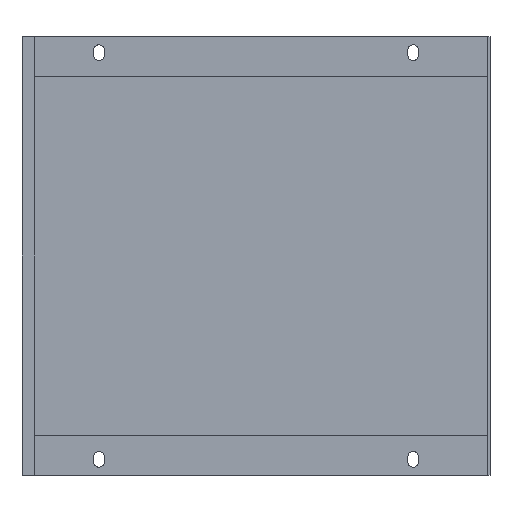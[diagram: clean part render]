
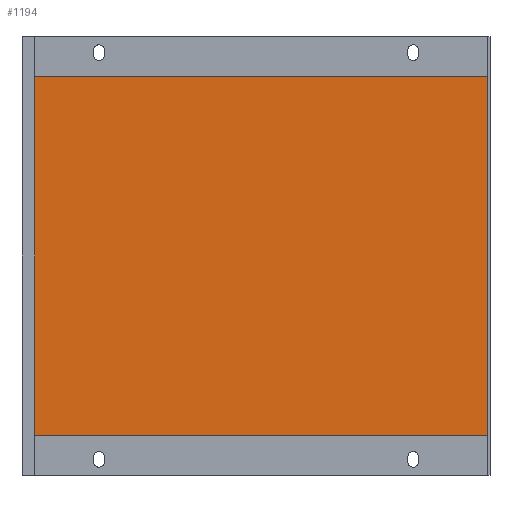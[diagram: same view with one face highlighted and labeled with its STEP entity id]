
A CAD part, front view. The second image highlights one B-rep face of the part: STEP entity #1194.
In plain terms, the highlighted planar face has unit normal (0, -1, 0).
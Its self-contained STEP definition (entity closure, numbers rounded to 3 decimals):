
#39 = LINE ( 'NONE', #279, #402 ) ;
#67 = VERTEX_POINT ( 'NONE', #640 ) ;
#88 = DIRECTION ( 'NONE',  ( 0., 0., -1. ) ) ;
#98 = ORIENTED_EDGE ( 'NONE', *, *, #1170, .F. ) ;
#279 = CARTESIAN_POINT ( 'NONE',  ( 0., 61.1, 254. ) ) ;
#295 = LINE ( 'NONE', #694, #583 ) ;
#297 = EDGE_LOOP ( 'NONE', ( #98, #357, #979, #887 ) ) ;
#326 = CARTESIAN_POINT ( 'NONE',  ( 288.6, 61.1, 279. ) ) ;
#350 = FACE_OUTER_BOUND ( 'NONE', #297, .T. ) ;
#357 = ORIENTED_EDGE ( 'NONE', *, *, #859, .T. ) ;
#402 = VECTOR ( 'NONE', #771, 1000. ) ;
#433 = LINE ( 'NONE', #1306, #1422 ) ;
#464 = LINE ( 'NONE', #326, #1152 ) ;
#577 = DIRECTION ( 'NONE',  ( 0., 0., 1. ) ) ;
#583 = VECTOR ( 'NONE', #814, 1000. ) ;
#607 = PLANE ( 'NONE',  #1571 ) ;
#640 = CARTESIAN_POINT ( 'NONE',  ( -6.6, 61.1, 254. ) ) ;
#645 = CARTESIAN_POINT ( 'NONE',  ( 288.6, 61.1, 25. ) ) ;
#694 = CARTESIAN_POINT ( 'NONE',  ( -6.6, 61.1, 279. ) ) ;
#771 = DIRECTION ( 'NONE',  ( -1., 0., 0. ) ) ;
#814 = DIRECTION ( 'NONE',  ( 0., 0., -1. ) ) ;
#834 = VERTEX_POINT ( 'NONE', #1514 ) ;
#857 = CARTESIAN_POINT ( 'NONE',  ( -8., 61.1, 279. ) ) ;
#859 = EDGE_CURVE ( 'NONE', #1495, #67, #39, .T. ) ;
#861 = VERTEX_POINT ( 'NONE', #645 ) ;
#887 = ORIENTED_EDGE ( 'NONE', *, *, #1464, .T. ) ;
#907 = CARTESIAN_POINT ( 'NONE',  ( 288.6, 61.1, 254. ) ) ;
#979 = ORIENTED_EDGE ( 'NONE', *, *, #1443, .T. ) ;
#1152 = VECTOR ( 'NONE', #88, 1000. ) ;
#1170 = EDGE_CURVE ( 'NONE', #1495, #861, #464, .T. ) ;
#1194 = ADVANCED_FACE ( 'NONE', ( #350 ), #607, .F. ) ;
#1295 = DIRECTION ( 'NONE',  ( 1., 0., 0. ) ) ;
#1306 = CARTESIAN_POINT ( 'NONE',  ( 0., 61.1, 25. ) ) ;
#1325 = DIRECTION ( 'NONE',  ( 0., 1., 0. ) ) ;
#1422 = VECTOR ( 'NONE', #1295, 1000. ) ;
#1443 = EDGE_CURVE ( 'NONE', #67, #834, #295, .T. ) ;
#1464 = EDGE_CURVE ( 'NONE', #834, #861, #433, .T. ) ;
#1495 = VERTEX_POINT ( 'NONE', #907 ) ;
#1514 = CARTESIAN_POINT ( 'NONE',  ( -6.6, 61.1, 25. ) ) ;
#1571 = AXIS2_PLACEMENT_3D ( 'NONE', #857, #1325, #577 ) ;
